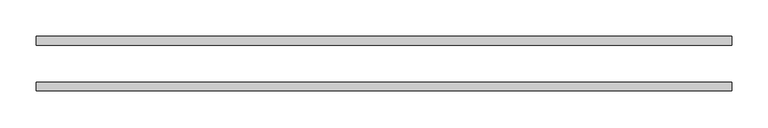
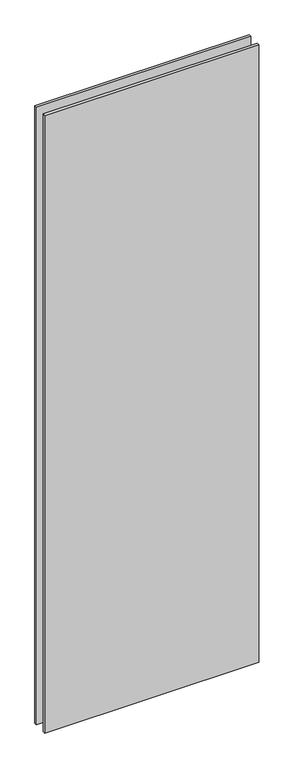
"""IFC4 building model written with IfcOpenShell, lengths in millimetres: plate geometry, VERTI ELEMENT - plná výpň : Dýhovaný povrch."""

from ifc_helpers import new_model, si_unit, origin, origin_with_axes, place, context, project, spatial, polyline, outline, extrude, source, transform, mapped, element, save


def plate_0eca42e6(model_context):
    return source(origin(), model_context, "Body", "SweptSolid", [
        extrude(outline(polyline([(-477.5, -37.5), (-477.5, -25.5), (477.5, -25.5), (477.5, -37.5), (-477.5, -37.5)])), origin_with_axes(), (0.0, 0.0, 1.0), 2910.0),
        extrude(outline(polyline([(477.5, 37.5), (477.5, 25.5), (-477.5, 25.5), (-477.5, 37.5), (477.5, 37.5)])), origin_with_axes(), (0.0, 0.0, 1.0), 2910.0),
    ])


if __name__ == "__main__":
    model = new_model("IFC4")
    model_context = context("Model", 3, world=origin())
    ifc_project = project(units=[si_unit("LENGTHUNIT", "METRE", prefix="MILLI")], contexts=[model_context])
    site = spatial("IfcSite", under=ifc_project)
    building = spatial("IfcBuilding", under=site)
    placement = place(None, origin())
    plate_shape = plate_0eca42e6(model_context)
    element("IfcPlate", 1, ObjectType="VERTI ELEMENT - plná výpň : Dýhovaný povrch", at=placement, inside=building, context=model_context, shape_type="MappedRepresentation", body=[
        mapped(plate_shape, transform((0.0, 0.0, 0.0), x_axis=(1.0, 0.0, 0.0), y_axis=(0.0, 1.0, 0.0), z_axis=(0.0, 0.0, 1.0))),
    ])
    save(model, "model.ifc")
